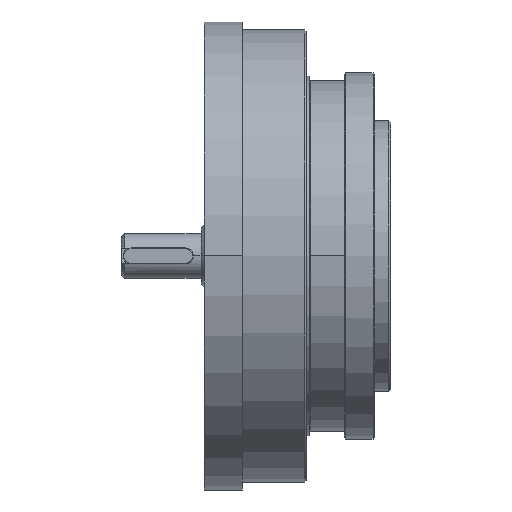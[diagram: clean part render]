
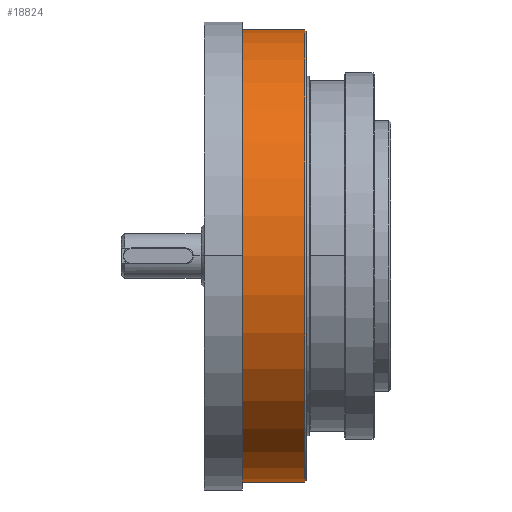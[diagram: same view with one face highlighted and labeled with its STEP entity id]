
A CAD part, top view. The second image highlights one B-rep face of the part: STEP entity #18824.
In plain terms, the highlighted cylindrical face has radius 71 mm (diameter 142 mm), a partial arc.
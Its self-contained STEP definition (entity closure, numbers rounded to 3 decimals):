
#2749 = CARTESIAN_POINT ( 'NONE',  ( -101.714, -71., 0. ) ) ;
#3183 = CARTESIAN_POINT ( 'NONE',  ( -22.5, -71., 0. ) ) ;
#3208 = EDGE_LOOP ( 'NONE', ( #10946, #8127, #5323, #23679, #13983, #5805 ) ) ;
#4345 = CIRCLE ( 'NONE', #20336, 71. ) ;
#5323 = ORIENTED_EDGE ( 'NONE', *, *, #14914, .T. ) ;
#5805 = ORIENTED_EDGE ( 'NONE', *, *, #15994, .T. ) ;
#5847 = CARTESIAN_POINT ( 'NONE',  ( -22.5, 71., 0. ) ) ;
#5923 = CARTESIAN_POINT ( 'NONE',  ( -44.9, 71., 0. ) ) ;
#6468 = DIRECTION ( 'NONE',  ( 1., 0., 0. ) ) ;
#6592 = LINE ( 'NONE', #10843, #12580 ) ;
#6773 = DIRECTION ( 'NONE',  ( -1., 0., 0. ) ) ;
#6865 = CARTESIAN_POINT ( 'NONE',  ( -44.9, 0., 71. ) ) ;
#7425 = VERTEX_POINT ( 'NONE', #6865 ) ;
#7918 = VERTEX_POINT ( 'NONE', #5847 ) ;
#7923 = AXIS2_PLACEMENT_3D ( 'NONE', #25476, #11960, #27734 ) ;
#8127 = ORIENTED_EDGE ( 'NONE', *, *, #15213, .T. ) ;
#8766 = AXIS2_PLACEMENT_3D ( 'NONE', #19982, #6468, #22244 ) ;
#9051 = DIRECTION ( 'NONE',  ( -1., 0., 0. ) ) ;
#9094 = EDGE_CURVE ( 'NONE', #7425, #25065, #25937, .T. ) ;
#9457 = DIRECTION ( 'NONE',  ( -1., 0., 0. ) ) ;
#9624 = EDGE_CURVE ( 'NONE', #17604, #25065, #27329, .T. ) ;
#10843 = CARTESIAN_POINT ( 'NONE',  ( -101.714, 71., 0. ) ) ;
#10946 = ORIENTED_EDGE ( 'NONE', *, *, #12231, .T. ) ;
#11960 = DIRECTION ( 'NONE',  ( 1., 0., 0. ) ) ;
#12231 = EDGE_CURVE ( 'NONE', #12351, #7918, #4345, .T. ) ;
#12351 = VERTEX_POINT ( 'NONE', #17500 ) ;
#12562 = DIRECTION ( 'NONE',  ( -1., 0., 0. ) ) ;
#12580 = VECTOR ( 'NONE', #24397, 1000. ) ;
#12769 = CYLINDRICAL_SURFACE ( 'NONE', #23723, 71. ) ;
#12870 = VERTEX_POINT ( 'NONE', #5923 ) ;
#13983 = ORIENTED_EDGE ( 'NONE', *, *, #9624, .F. ) ;
#14914 = EDGE_CURVE ( 'NONE', #12870, #7425, #15774, .T. ) ;
#15213 = EDGE_CURVE ( 'NONE', #7918, #12870, #6592, .T. ) ;
#15774 = CIRCLE ( 'NONE', #7923, 71. ) ;
#15994 = EDGE_CURVE ( 'NONE', #17604, #12351, #18915, .T. ) ;
#17500 = CARTESIAN_POINT ( 'NONE',  ( -22.5, 0., 71. ) ) ;
#17604 = VERTEX_POINT ( 'NONE', #3183 ) ;
#17810 = AXIS2_PLACEMENT_3D ( 'NONE', #22585, #9051, #24885 ) ;
#18824 = ADVANCED_FACE ( 'NONE', ( #26179 ), #12769, .T. ) ;
#18915 = CIRCLE ( 'NONE', #17810, 71. ) ;
#19982 = CARTESIAN_POINT ( 'NONE',  ( -44.9, 0., 0. ) ) ;
#20287 = CARTESIAN_POINT ( 'NONE',  ( -101.714, 0., 0. ) ) ;
#20336 = AXIS2_PLACEMENT_3D ( 'NONE', #26070, #12562, #28336 ) ;
#21323 = VECTOR ( 'NONE', #9457, 1000. ) ;
#22244 = DIRECTION ( 'NONE',  ( 0., -1., 0. ) ) ;
#22538 = DIRECTION ( 'NONE',  ( 0., -1., 0. ) ) ;
#22585 = CARTESIAN_POINT ( 'NONE',  ( -22.5, 0., 0. ) ) ;
#23679 = ORIENTED_EDGE ( 'NONE', *, *, #9094, .T. ) ;
#23723 = AXIS2_PLACEMENT_3D ( 'NONE', #20287, #6773, #22538 ) ;
#24397 = DIRECTION ( 'NONE',  ( -1., 0., 0. ) ) ;
#24885 = DIRECTION ( 'NONE',  ( 0., -1., 0. ) ) ;
#25065 = VERTEX_POINT ( 'NONE', #29182 ) ;
#25476 = CARTESIAN_POINT ( 'NONE',  ( -44.9, 0., 0. ) ) ;
#25937 = CIRCLE ( 'NONE', #8766, 71. ) ;
#26070 = CARTESIAN_POINT ( 'NONE',  ( -22.5, 0., 0. ) ) ;
#26179 = FACE_OUTER_BOUND ( 'NONE', #3208, .T. ) ;
#27329 = LINE ( 'NONE', #2749, #21323 ) ;
#27734 = DIRECTION ( 'NONE',  ( 0., -1., 0. ) ) ;
#28336 = DIRECTION ( 'NONE',  ( 0., -1., 0. ) ) ;
#29182 = CARTESIAN_POINT ( 'NONE',  ( -44.9, -71., 0. ) ) ;
